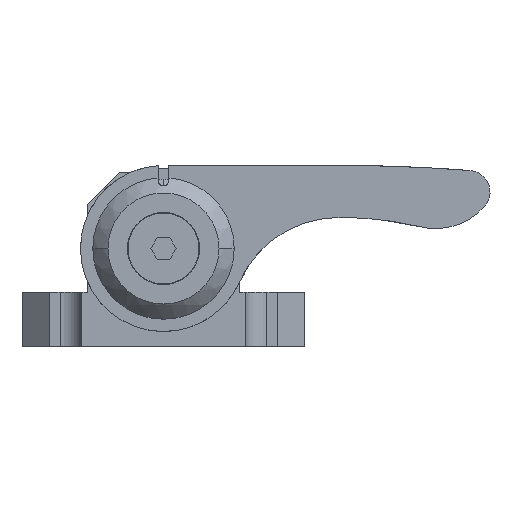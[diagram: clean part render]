
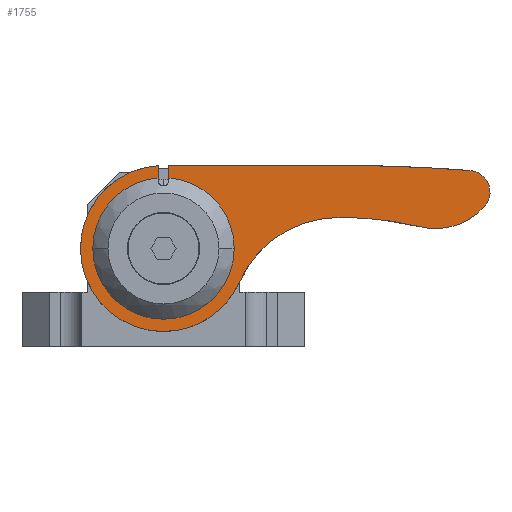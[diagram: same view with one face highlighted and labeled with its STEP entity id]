
A CAD part, left-side view. The second image highlights one B-rep face of the part: STEP entity #1755.
In plain terms, the highlighted planar face has unit normal (-1, 0, 0) as drawn and (0, 0, -1) by its records, which use the part's own axes.
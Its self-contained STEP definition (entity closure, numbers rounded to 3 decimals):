
#87 = DIRECTION ( 'NONE',  ( 0., -1., 0. ) ) ;
#107 = VECTOR ( 'NONE', #3002, 1000. ) ;
#188 = VERTEX_POINT ( 'NONE', #2186 ) ;
#221 = ORIENTED_EDGE ( 'NONE', *, *, #2868, .T. ) ;
#256 = CARTESIAN_POINT ( 'NONE',  ( 0., 0., -14. ) ) ;
#265 = CIRCLE ( 'NONE', #2867, 12. ) ;
#346 = VERTEX_POINT ( 'NONE', #3669 ) ;
#387 = AXIS2_PLACEMENT_3D ( 'NONE', #3973, #2178, #840 ) ;
#467 = CARTESIAN_POINT ( 'NONE',  ( 1., 15.217, -14. ) ) ;
#490 = EDGE_CURVE ( 'NONE', #188, #3196, #3737, .T. ) ;
#547 = CARTESIAN_POINT ( 'NONE',  ( 0., 15.25, -14. ) ) ;
#556 = DIRECTION ( 'NONE',  ( 0., 0., 1. ) ) ;
#677 = AXIS2_PLACEMENT_3D ( 'NONE', #2159, #1197, #3232 ) ;
#680 = CIRCLE ( 'NONE', #387, 60. ) ;
#688 = CARTESIAN_POINT ( 'NONE',  ( -56.311, 14.343, -14. ) ) ;
#716 = VERTEX_POINT ( 'NONE', #3847 ) ;
#725 = ORIENTED_EDGE ( 'NONE', *, *, #1026, .F. ) ;
#835 = CIRCLE ( 'NONE', #1921, 13. ) ;
#840 = DIRECTION ( 'NONE',  ( 0., -1., 0. ) ) ;
#997 = DIRECTION ( 'NONE',  ( 0., -1., 0. ) ) ;
#1016 = CARTESIAN_POINT ( 'NONE',  ( 0., 0., -14. ) ) ;
#1026 = EDGE_CURVE ( 'NONE', #3885, #3724, #1412, .T. ) ;
#1029 = VERTEX_POINT ( 'NONE', #3203 ) ;
#1082 = CARTESIAN_POINT ( 'NONE',  ( -1., 0., -14. ) ) ;
#1126 = CARTESIAN_POINT ( 'NONE',  ( 1., 12.961, -14. ) ) ;
#1197 = DIRECTION ( 'NONE',  ( 0., 0., 1. ) ) ;
#1230 = DIRECTION ( 'NONE',  ( 0., -1., 0. ) ) ;
#1239 = DIRECTION ( 'NONE',  ( 0., -1., 0. ) ) ;
#1249 = CIRCLE ( 'NONE', #4450, 13. ) ;
#1263 = VECTOR ( 'NONE', #4206, 1000. ) ;
#1356 = ORIENTED_EDGE ( 'NONE', *, *, #1903, .F. ) ;
#1381 = VERTEX_POINT ( 'NONE', #1126 ) ;
#1412 = CIRCLE ( 'NONE', #3813, 15.25 ) ;
#1464 = AXIS2_PLACEMENT_3D ( 'NONE', #2750, #1765, #997 ) ;
#1562 = EDGE_CURVE ( 'NONE', #3196, #1381, #1249, .T. ) ;
#1581 = VERTEX_POINT ( 'NONE', #3051 ) ;
#1635 = LINE ( 'NONE', #2024, #107 ) ;
#1637 = ORIENTED_EDGE ( 'NONE', *, *, #3946, .F. ) ;
#1723 = EDGE_CURVE ( 'NONE', #346, #4261, #4158, .T. ) ;
#1755 = ADVANCED_FACE ( 'NONE', ( #3792 ), #2042, .T. ) ;
#1765 = DIRECTION ( 'NONE',  ( 0., 0., 1. ) ) ;
#1814 = EDGE_CURVE ( 'NONE', #4261, #1993, #680, .T. ) ;
#1836 = EDGE_CURVE ( 'NONE', #3885, #1993, #4385, .T. ) ;
#1837 = DIRECTION ( 'NONE',  ( 0., 0., 1. ) ) ;
#1849 = AXIS2_PLACEMENT_3D ( 'NONE', #2942, #3310, #1230 ) ;
#1903 = EDGE_CURVE ( 'NONE', #3048, #716, #4230, .T. ) ;
#1913 = AXIS2_PLACEMENT_3D ( 'NONE', #1016, #3433, #3779 ) ;
#1921 = AXIS2_PLACEMENT_3D ( 'NONE', #3849, #1837, #2464 ) ;
#1929 = DIRECTION ( 'NONE',  ( 1., 0., 0. ) ) ;
#1973 = DIRECTION ( 'NONE',  ( 0., 1., 0. ) ) ;
#1993 = VERTEX_POINT ( 'NONE', #4132 ) ;
#2017 = EDGE_LOOP ( 'NONE', ( #2377, #2829, #4391, #221, #725, #3039, #2273, #4004, #2606, #1356, #1637, #3604, #4343 ) ) ;
#2024 = CARTESIAN_POINT ( 'NONE',  ( 1., 14.75, -14. ) ) ;
#2036 = EDGE_CURVE ( 'NONE', #1029, #3550, #2265, .T. ) ;
#2042 = PLANE ( 'NONE',  #2558 ) ;
#2047 = CARTESIAN_POINT ( 'NONE',  ( -50.007, 15.655, -14. ) ) ;
#2159 = CARTESIAN_POINT ( 'NONE',  ( -32.221, -14.296, -14. ) ) ;
#2178 = DIRECTION ( 'NONE',  ( 0., 0., -1. ) ) ;
#2186 = CARTESIAN_POINT ( 'NONE',  ( -13., 0., -14. ) ) ;
#2265 = LINE ( 'NONE', #547, #3077 ) ;
#2273 = ORIENTED_EDGE ( 'NONE', *, *, #1814, .F. ) ;
#2337 = DIRECTION ( 'NONE',  ( 0., 0., 1. ) ) ;
#2377 = ORIENTED_EDGE ( 'NONE', *, *, #4265, .T. ) ;
#2438 = DIRECTION ( 'NONE',  ( 0., 0., -1. ) ) ;
#2464 = DIRECTION ( 'NONE',  ( 0., 1., 0. ) ) ;
#2558 = AXIS2_PLACEMENT_3D ( 'NONE', #3188, #2438, #3825 ) ;
#2606 = ORIENTED_EDGE ( 'NONE', *, *, #4185, .F. ) ;
#2721 = CARTESIAN_POINT ( 'NONE',  ( -56., 10.355, -14. ) ) ;
#2750 = CARTESIAN_POINT ( 'NONE',  ( -50.007, 15.655, -14. ) ) ;
#2829 = ORIENTED_EDGE ( 'NONE', *, *, #490, .T. ) ;
#2867 = AXIS2_PLACEMENT_3D ( 'NONE', #2047, #3036, #4124 ) ;
#2868 = EDGE_CURVE ( 'NONE', #1381, #3724, #1635, .T. ) ;
#2942 = CARTESIAN_POINT ( 'NONE',  ( -33., -284.75, -14. ) ) ;
#2955 = EDGE_CURVE ( 'NONE', #1581, #3550, #4223, .T. ) ;
#3002 = DIRECTION ( 'NONE',  ( 0., 1., 0. ) ) ;
#3036 = DIRECTION ( 'NONE',  ( 0., 0., 1. ) ) ;
#3039 = ORIENTED_EDGE ( 'NONE', *, *, #1836, .T. ) ;
#3048 = VERTEX_POINT ( 'NONE', #688 ) ;
#3051 = CARTESIAN_POINT ( 'NONE',  ( -1., 12.961, -14. ) ) ;
#3077 = VECTOR ( 'NONE', #1929, 1000. ) ;
#3188 = CARTESIAN_POINT ( 'NONE',  ( 0., 0., -14. ) ) ;
#3196 = VERTEX_POINT ( 'NONE', #3407 ) ;
#3203 = CARTESIAN_POINT ( 'NONE',  ( -33., 15.25, -14. ) ) ;
#3232 = DIRECTION ( 'NONE',  ( 0., -1., 0. ) ) ;
#3310 = DIRECTION ( 'NONE',  ( 0., 0., 1. ) ) ;
#3364 = AXIS2_PLACEMENT_3D ( 'NONE', #2721, #4475, #1239 ) ;
#3407 = CARTESIAN_POINT ( 'NONE',  ( 13., 0., -14. ) ) ;
#3433 = DIRECTION ( 'NONE',  ( 0., 0., 1. ) ) ;
#3550 = VERTEX_POINT ( 'NONE', #4172 ) ;
#3604 = ORIENTED_EDGE ( 'NONE', *, *, #2036, .T. ) ;
#3669 = CARTESIAN_POINT ( 'NONE',  ( -50.007, 3.655, -14. ) ) ;
#3724 = VERTEX_POINT ( 'NONE', #467 ) ;
#3737 = CIRCLE ( 'NONE', #1913, 13. ) ;
#3779 = DIRECTION ( 'NONE',  ( 0., 1., 0. ) ) ;
#3792 = FACE_OUTER_BOUND ( 'NONE', #2017, .T. ) ;
#3810 = CIRCLE ( 'NONE', #1849, 300. ) ;
#3813 = AXIS2_PLACEMENT_3D ( 'NONE', #256, #2337, #87 ) ;
#3825 = DIRECTION ( 'NONE',  ( 0., -1., 0. ) ) ;
#3847 = CARTESIAN_POINT ( 'NONE',  ( -58.996, 7.705, -14. ) ) ;
#3849 = CARTESIAN_POINT ( 'NONE',  ( 0., 0., -14. ) ) ;
#3866 = CARTESIAN_POINT ( 'NONE',  ( -47.16, 3.997, -14. ) ) ;
#3885 = VERTEX_POINT ( 'NONE', #4197 ) ;
#3946 = EDGE_CURVE ( 'NONE', #1029, #3048, #3810, .T. ) ;
#3973 = CARTESIAN_POINT ( 'NONE',  ( -32.925, -54.29, -14. ) ) ;
#4004 = ORIENTED_EDGE ( 'NONE', *, *, #1723, .F. ) ;
#4052 = CARTESIAN_POINT ( 'NONE',  ( 0., 0., -14. ) ) ;
#4124 = DIRECTION ( 'NONE',  ( 0., -1., 0. ) ) ;
#4132 = CARTESIAN_POINT ( 'NONE',  ( -31.869, 5.701, -14. ) ) ;
#4158 = CIRCLE ( 'NONE', #1464, 12. ) ;
#4172 = CARTESIAN_POINT ( 'NONE',  ( -1., 15.25, -14. ) ) ;
#4185 = EDGE_CURVE ( 'NONE', #716, #346, #265, .T. ) ;
#4197 = CARTESIAN_POINT ( 'NONE',  ( -13.94, -6.185, -14. ) ) ;
#4206 = DIRECTION ( 'NONE',  ( 0., 1., 0. ) ) ;
#4223 = LINE ( 'NONE', #1082, #1263 ) ;
#4230 = CIRCLE ( 'NONE', #3364, 4. ) ;
#4261 = VERTEX_POINT ( 'NONE', #3866 ) ;
#4265 = EDGE_CURVE ( 'NONE', #1581, #188, #835, .T. ) ;
#4343 = ORIENTED_EDGE ( 'NONE', *, *, #2955, .F. ) ;
#4385 = CIRCLE ( 'NONE', #677, 20. ) ;
#4391 = ORIENTED_EDGE ( 'NONE', *, *, #1562, .T. ) ;
#4450 = AXIS2_PLACEMENT_3D ( 'NONE', #4052, #556, #1973 ) ;
#4475 = DIRECTION ( 'NONE',  ( 0., 0., 1. ) ) ;
